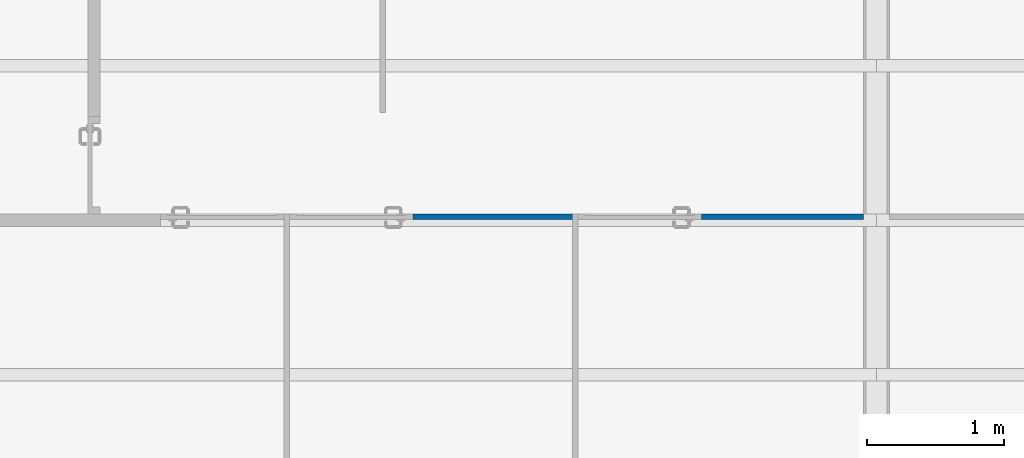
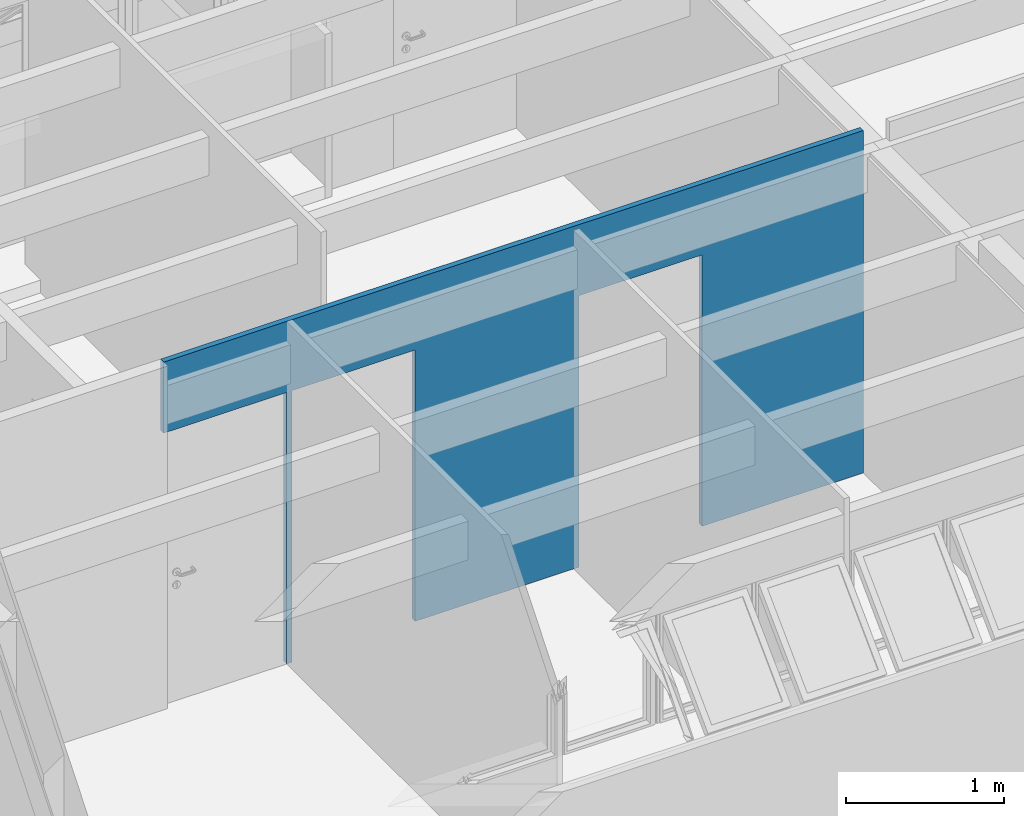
# One storey, part 5 of 37: 1 wall, 3 openings.
"""IFC2X3 building model written with IfcOpenShell, lengths in millimetres."""

from ifc_helpers import new_model, entity, si_unit, converted_unit, derived_unit, money_unit, direction, frame, origin_with_axes, origin_2d_with_axis, place, context, subcontext, project, spatial, polyline, rectangle, outline, extrude, material, layer, layer_set, layer_usage, type_object, element, save


model = new_model("IFC2X3")

# Units and contexts
model_context = context("Model", 3, precision=0.01, world=origin_with_axes(), true_north=direction((0.0, 1.0)))
body_context = subcontext(model_context, "Body", "Model", "MODEL_VIEW")
ifc_project = project(units=[si_unit("LENGTHUNIT", "METRE", prefix="MILLI"), si_unit("AREAUNIT", "SQUARE_METRE"), si_unit("VOLUMEUNIT", "CUBIC_METRE"), converted_unit("PLANEANGLEUNIT", "DEGREE", entity("IfcPlaneAngleMeasure", 0.0174532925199), si_unit("PLANEANGLEUNIT", "RADIAN"), dimensions=[0, 0, 0, 0, 0, 0, 0]), money_unit("USD"), converted_unit("TIMEUNIT", "Year", entity("IfcTimeMeasure", 31556926.0), si_unit("TIMEUNIT", "SECOND"), dimensions=[0, 0, 1, 0, 0, 0, 0]), si_unit("MASSUNIT", "GRAM", prefix="KILO"), si_unit("THERMODYNAMICTEMPERATUREUNIT", "DEGREE_CELSIUS"), si_unit("LUMINOUSINTENSITYUNIT", "LUMEN"), si_unit("ENERGYUNIT", "JOULE", prefix="MEGA"), derived_unit("THERMALCONDUCTANCEUNIT", [(si_unit("POWERUNIT", "WATT"), 1), (si_unit("LENGTHUNIT", "METRE"), -1), (si_unit("THERMODYNAMICTEMPERATUREUNIT", "KELVIN"), -1)]), derived_unit("SPECIFICHEATCAPACITYUNIT", [(si_unit("ENERGYUNIT", "JOULE"), 1), (si_unit("MASSUNIT", "GRAM", prefix="KILO"), -1), (si_unit("THERMODYNAMICTEMPERATUREUNIT", "KELVIN"), -1)]), derived_unit("MASSDENSITYUNIT", [(si_unit("MASSUNIT", "GRAM", prefix="KILO"), 1), (si_unit("VOLUMEUNIT", "CUBIC_METRE"), -1)])], contexts=[model_context])

# Site, building, storey
site_placement = place(None, origin_with_axes())
site = spatial("IfcSite", under=ifc_project, at=site_placement, Name="Local", CompositionType="ELEMENT")
building_placement = place(site_placement, origin_with_axes())
building = spatial("IfcBuilding", under=site, at=building_placement, Name="Construção", CompositionType="ELEMENT")
storey_placement = place(building_placement, origin_with_axes())
storey = spatial("IfcBuildingStorey", under=building, at=storey_placement, Name="Primeiro Pavimento", CompositionType="ELEMENT", Elevation=0.0)

# Wall, openings
ifc_material = material(Name="GENÉRICO - VEDAÇÃO EXTERNA")
ifc_layer = layer(ifc_material, 40.0, ventilated="UNKNOWN")
ifc_layer_set = layer_set([ifc_layer], Name="GENÉRICO - VEDAÇÃO EXTERNA 40")
ifc_layer_usage = layer_usage(ifc_layer_set, "AXIS2", "NEGATIVE", 0.0)
wall_type = type_object("IfcWallType", Name="GENÉRICO - VEDAÇÃO EXTERNA 40", PredefinedType="NOTDEFINED")
wall_placement = place(storey_placement, frame((2170.0, 3765.2195667, 0.0), z_axis=(0.0, 0.0, 1.0), x_axis=(0.99999999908, -4.28841203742e-05, 0.0)))
wall = element("IfcWallStandardCase", 1, at=wall_placement, inside=storey, type_object=wall_type, material=ifc_layer_usage, Name="APTO1-PAREDE-006", context=body_context, shape_type="SweptSolid", body=[
    extrude(outline(polyline([(0.000857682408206, -40.0), (5120.00000471, -40.0), (5120.00000471, 0.0), (0.0, 0.0), (0.000857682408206, -40.0)])), origin_with_axes(), (0.0, 0.0, 1.0), 2650.0),
])
opening_1_placement = place(wall_placement, frame((1390.00000471, 0.0, 0.0), z_axis=(0.0, 0.0, 1.0), x_axis=(1.0, 0.0, 0.0)))
element("IfcOpeningElement", 2, at=opening_1_placement, cuts=wall, Name="APTO1-PORTA-002", context=body_context, shape_type="SweptSolid", body=[
    extrude(rectangle(XDim=900.0, YDim=2100.0, at=origin_2d_with_axis()), frame((0.0, -40.0, 1050.0), z_axis=(0.0, 1.0, 0.0), x_axis=(-1.0, 0.0, 0.0)), (0.0, 0.0, 1.0), 120.0),
])
opening_2_placement = place(wall_placement, frame((450.000004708, 0.0, 0.0), z_axis=(0.0, 0.0, 1.0), x_axis=(1.0, 0.0, 0.0)))
element("IfcOpeningElement", 3, at=opening_2_placement, cuts=wall, Name="APTO1-PORTA-001", context=body_context, shape_type="SweptSolid", body=[
    extrude(rectangle(XDim=900.0, YDim=2100.0, at=origin_2d_with_axis()), frame((0.0, -40.0, 1050.0), z_axis=(0.0, -1.0, 0.0), x_axis=(1.0, 0.0, 0.0)), (0.0, 0.0, -1.0), 120.0),
])
opening_3_placement = place(wall_placement, frame((3490.00000471, 0.0, 0.0), z_axis=(0.0, 0.0, 1.0), x_axis=(1.0, 0.0, 0.0)))
element("IfcOpeningElement", 4, at=opening_3_placement, cuts=wall, Name="APTO1-PORTA-000", context=body_context, shape_type="SweptSolid", body=[
    extrude(rectangle(XDim=900.0, YDim=2100.0, at=origin_2d_with_axis()), frame((0.0, -40.0, 1050.0), z_axis=(0.0, 1.0, 0.0), x_axis=(-1.0, 0.0, 0.0)), (0.0, 0.0, 1.0), 120.0),
])

save(model, "model.ifc")
